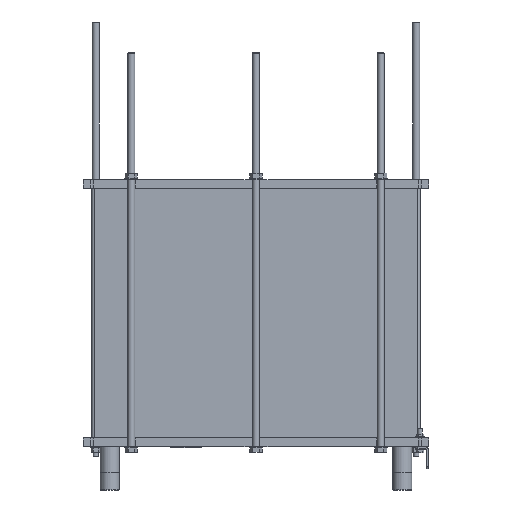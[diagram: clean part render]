
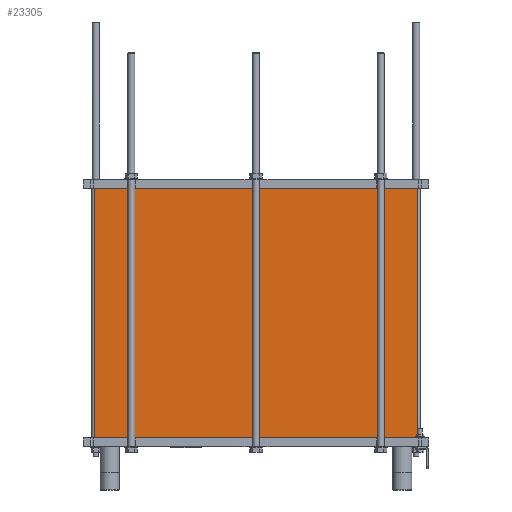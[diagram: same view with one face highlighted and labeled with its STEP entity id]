
A CAD part, left-side view. The second image highlights one B-rep face of the part: STEP entity #23305.
In plain terms, the highlighted planar face has unit normal (-1, 0, 0).
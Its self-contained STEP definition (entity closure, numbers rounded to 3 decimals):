
#15365=CARTESIAN_POINT('',(-62.5,-370.0,20.0));
#15366=VERTEX_POINT('',#15365);
#15374=CARTESIAN_POINT('',(-62.5,370.0,20.0));
#15375=VERTEX_POINT('',#15374);
#15376=CARTESIAN_POINT('',(-62.5,-370.0,20.0));
#15377=DIRECTION('',(0.0,1.0,0.0));
#15378=VECTOR('',#15377,740.0);
#15379=LINE('',#15376,#15378);
#15380=EDGE_CURVE('',#15366,#15375,#15379,.T.);
#22949=CARTESIAN_POINT('',(-62.5,370.0,590.0));
#22950=VERTEX_POINT('',#22949);
#22958=CARTESIAN_POINT('',(-62.5,-370.0,590.0));
#22959=VERTEX_POINT('',#22958);
#22960=CARTESIAN_POINT('',(-62.5,-370.0,590.0));
#22961=DIRECTION('',(0.0,1.0,0.0));
#22962=VECTOR('',#22961,740.0);
#22963=LINE('',#22960,#22962);
#22964=EDGE_CURVE('',#22959,#22950,#22963,.T.);
#23278=CARTESIAN_POINT('',(-62.5,-370.0,20.0));
#23279=DIRECTION('',(0.0,0.0,1.0));
#23280=VECTOR('',#23279,570.0);
#23281=LINE('',#23278,#23280);
#23282=EDGE_CURVE('',#15366,#22959,#23281,.T.);
#23289=CARTESIAN_POINT('',(-62.5,-370.0,20.0));
#23290=DIRECTION('',(-1.0,0.0,0.0));
#23291=DIRECTION('',(0.0,0.0,1.0));
#23292=AXIS2_PLACEMENT_3D('',#23289,#23290,#23291);
#23293=PLANE('',#23292);
#23294=ORIENTED_EDGE('',*,*,#22964,.T.);
#23295=CARTESIAN_POINT('',(-62.5,370.0,20.0));
#23296=DIRECTION('',(0.0,0.0,1.0));
#23297=VECTOR('',#23296,570.0);
#23298=LINE('',#23295,#23297);
#23299=EDGE_CURVE('',#15375,#22950,#23298,.T.);
#23300=ORIENTED_EDGE('',*,*,#23299,.F.);
#23301=ORIENTED_EDGE('',*,*,#15380,.F.);
#23302=ORIENTED_EDGE('',*,*,#23282,.T.);
#23303=EDGE_LOOP('',(#23294,#23300,#23301,#23302));
#23304=FACE_OUTER_BOUND('',#23303,.T.);
#23305=ADVANCED_FACE('',(#23304),#23293,.T.);
